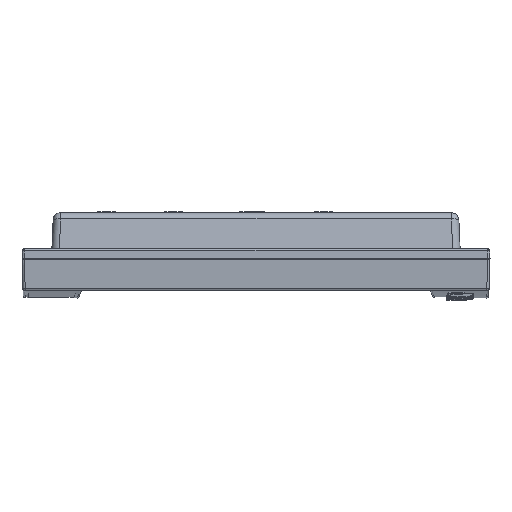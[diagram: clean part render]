
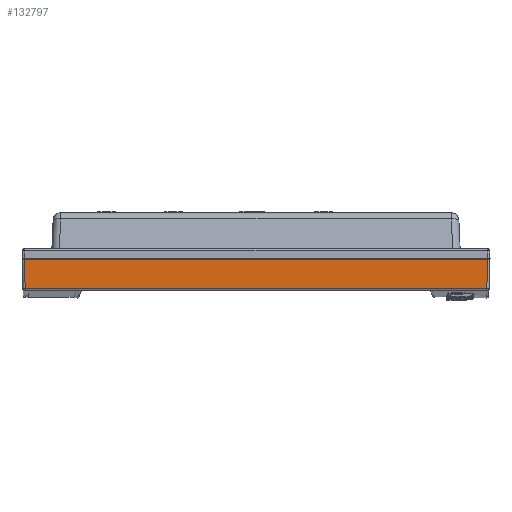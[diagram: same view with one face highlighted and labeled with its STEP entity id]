
A CAD part, left-side view. The second image highlights one B-rep face of the part: STEP entity #132797.
In plain terms, the highlighted planar face has unit normal (-1, 0, -0.03).
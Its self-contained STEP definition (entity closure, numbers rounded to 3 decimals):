
#132784 = EDGE_CURVE ( 'NONE', #132787, #132806, #148029, .T. ) ;
#132787 = VERTEX_POINT ( 'NONE', #148023 ) ;
#132789 = ORIENTED_EDGE ( 'NONE', *, *, #132790, .T. ) ;
#132790 = EDGE_CURVE ( 'NONE', #132787, #132803, #148017, .T. ) ;
#132797 = ADVANCED_FACE ( 'NONE', ( #148005 ), #148001, .T. ) ;
#132798 = EDGE_LOOP ( 'NONE', ( #132799, #132931, #132934, #132789 ) ) ;
#132799 = ORIENTED_EDGE ( 'NONE', *, *, #132801, .T. ) ;
#132801 = EDGE_CURVE ( 'NONE', #132803, #132804, #147981, .T. ) ;
#132803 = VERTEX_POINT ( 'NONE', #147971 ) ;
#132804 = VERTEX_POINT ( 'NONE', #147967 ) ;
#132806 = VERTEX_POINT ( 'NONE', #147964 ) ;
#132931 = ORIENTED_EDGE ( 'NONE', *, *, #132932, .T. ) ;
#132932 = EDGE_CURVE ( 'NONE', #132804, #132806, #148389, .T. ) ;
#132934 = ORIENTED_EDGE ( 'NONE', *, *, #132784, .F. ) ;
#147964 = CARTESIAN_POINT ( 'NONE',  ( -178.955, 1.544, 21. ) ) ;
#147967 = CARTESIAN_POINT ( 'NONE',  ( -178.372, 2.127, 1.34 ) ) ;
#147971 = CARTESIAN_POINT ( 'NONE',  ( -178.372, 310.873, 1.34 ) ) ;
#147974 = DIRECTION ( 'NONE',  ( 0., -1., 0. ) ) ;
#147977 = VECTOR ( 'NONE', #147974, 1000. ) ;
#147978 = CARTESIAN_POINT ( 'NONE',  ( -178.372, 0., 1.34 ) ) ;
#147981 = LINE ( 'NONE', #147978, #147977 ) ;
#147987 = DIRECTION ( 'NONE',  ( -0.03, 0., 1. ) ) ;
#147990 = DIRECTION ( 'NONE',  ( -1., 0., -0.03 ) ) ;
#147991 = CARTESIAN_POINT ( 'NONE',  ( -179., 0., 22.5 ) ) ;
#147999 = AXIS2_PLACEMENT_3D ( 'NONE', #147991, #147990, #147987 ) ;
#148001 = PLANE ( 'NONE',  #147999 ) ;
#148005 = FACE_OUTER_BOUND ( 'NONE', #132798, .T. ) ;
#148011 = DIRECTION ( 'NONE',  ( 0.03, -0.03, -0.999 ) ) ;
#148013 = VECTOR ( 'NONE', #148011, 1000. ) ;
#148015 = CARTESIAN_POINT ( 'NONE',  ( -178.726, 311.227, 13.271 ) ) ;
#148017 = LINE ( 'NONE', #148015, #148013 ) ;
#148023 = CARTESIAN_POINT ( 'NONE',  ( -178.955, 311.456, 21. ) ) ;
#148025 = DIRECTION ( 'NONE',  ( 0., -1., 0. ) ) ;
#148027 = VECTOR ( 'NONE', #148025, 1000. ) ;
#148028 = CARTESIAN_POINT ( 'NONE',  ( -178.955, 0., 21. ) ) ;
#148029 = LINE ( 'NONE', #148028, #148027 ) ;
#148386 = DIRECTION ( 'NONE',  ( -0.03, -0.03, 0.999 ) ) ;
#148387 = VECTOR ( 'NONE', #148386, 1000. ) ;
#148388 = CARTESIAN_POINT ( 'NONE',  ( -179.001, 1.498, 22.544 ) ) ;
#148389 = LINE ( 'NONE', #148388, #148387 ) ;
